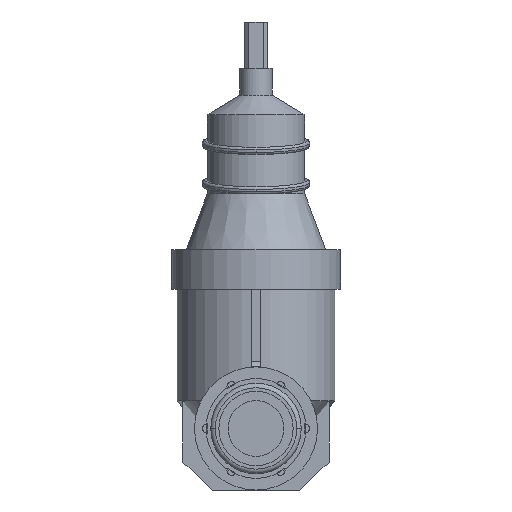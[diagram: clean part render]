
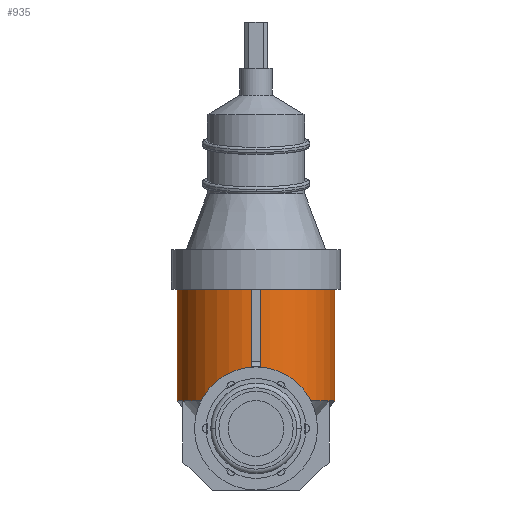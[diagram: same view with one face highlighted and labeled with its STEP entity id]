
A CAD part, left-side view. The second image highlights one B-rep face of the part: STEP entity #935.
In plain terms, the highlighted cylindrical face has radius 34 mm (diameter 68 mm), a partial arc.
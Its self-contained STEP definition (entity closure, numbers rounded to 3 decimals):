
#935=ADVANCED_FACE('',(#1686),#1687,.T.);
#1686=FACE_OUTER_BOUND('',#2516,.T.);
#1687=CYLINDRICAL_SURFACE('',#2517,34.0);
#2516=EDGE_LOOP('',(#3886,#3887,#3888,#3889));
#2517=AXIS2_PLACEMENT_3D('',#3890,#3891,#3892);
#3886=ORIENTED_EDGE('',*,*,#4395,.T.);
#3887=ORIENTED_EDGE('',*,*,#4644,.T.);
#3888=ORIENTED_EDGE('',*,*,#4397,.T.);
#3889=ORIENTED_EDGE('',*,*,#4790,.T.);
#3890=CARTESIAN_POINT('',(0.0,0.,12.0));
#3891=DIRECTION('',(0.0,0.,1.0));
#3892=DIRECTION('',(0.0,-1.0,0.));
#4395=EDGE_CURVE('',#5113,#5114,#5115,.T.);
#4397=EDGE_CURVE('',#5118,#5116,#5119,.T.);
#4644=EDGE_CURVE('',#5114,#5118,#5464,.T.);
#4790=EDGE_CURVE('',#5116,#5113,#5655,.T.);
#5113=VERTEX_POINT('',#6050);
#5114=VERTEX_POINT('',#6051);
#5115=LINE('',#6052,#6053);
#5116=VERTEX_POINT('',#6054);
#5118=VERTEX_POINT('',#6056);
#5119=LINE('',#6057,#6058);
#5464=CIRCLE('',#6484,34.0);
#5655=CIRCLE('',#6713,34.0);
#6050=CARTESIAN_POINT('',(0.0,-34.0,12.0));
#6051=CARTESIAN_POINT('',(0.0,-34.0,60.0));
#6052=CARTESIAN_POINT('',(0.,-34.0,12.0));
#6053=VECTOR('',#7002,1.0);
#6054=CARTESIAN_POINT('',(0.,34.0,12.0));
#6056=CARTESIAN_POINT('',(0.,34.0,60.0));
#6057=CARTESIAN_POINT('',(0.,34.0,12.0));
#6058=VECTOR('',#7006,1.0);
#6484=AXIS2_PLACEMENT_3D('',#7328,#7329,#7330);
#6713=AXIS2_PLACEMENT_3D('',#7498,#7499,#7500);
#7002=DIRECTION('',(0.0,0.,1.0));
#7006=DIRECTION('',(-0.0,0.,-1.0));
#7328=CARTESIAN_POINT('',(0.0,0.,60.0));
#7329=DIRECTION('',(-0.0,0.,-1.0));
#7330=DIRECTION('',(0.0,-1.0,0.));
#7498=CARTESIAN_POINT('',(0.0,0.,12.0));
#7499=DIRECTION('',(0.0,0.,1.0));
#7500=DIRECTION('',(0.0,-1.0,0.));
